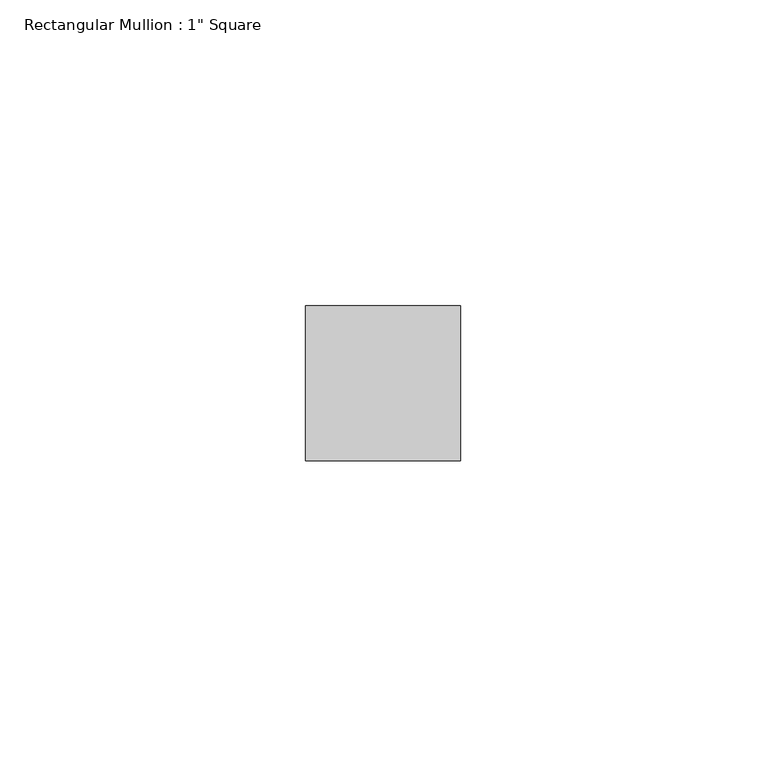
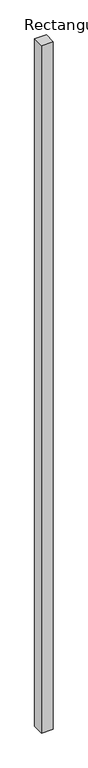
"""IFC4 building model written with IfcOpenShell, lengths in millimetres: member geometry."""

from ifc_helpers import new_model, si_unit, frame, origin, place, context, project, spatial, polyline, outline, extrude, source, transform, mapped, element, save


def member_513a4f72(model_context):
    return source(origin(), model_context, "Body", "SweptSolid", [
        extrude(outline(polyline([(12.7, 12.7), (12.7, -12.7), (-12.7, -12.7), (-12.7, 12.7), (12.7, 12.7)])), frame((0.0, 0.0, -1574.5620497), z_axis=(0.0, 0.0, 1.0), x_axis=(1.0, 0.0, 0.0)), (0.0, 0.0, 1.0), 1574.5620497),
    ])


if __name__ == "__main__":
    model = new_model("IFC4")
    model_context = context("Model", 3, world=origin())
    ifc_project = project(units=[si_unit("LENGTHUNIT", "METRE", prefix="MILLI")], contexts=[model_context])
    site = spatial("IfcSite", under=ifc_project)
    building = spatial("IfcBuilding", under=site)
    placement = place(None, origin())
    member_shape = member_513a4f72(model_context)
    element("IfcMember", 1, ObjectType="Rectangular Mullion : 1\" Square", at=placement, inside=building, context=model_context, shape_type="MappedRepresentation", body=[
        mapped(member_shape, transform((0.0, 0.0, 0.0), x_axis=(1.0, 0.0, 0.0), y_axis=(0.0, 1.0, 0.0), z_axis=(0.0, 0.0, 1.0))),
    ])
    save(model, "model.ifc")
